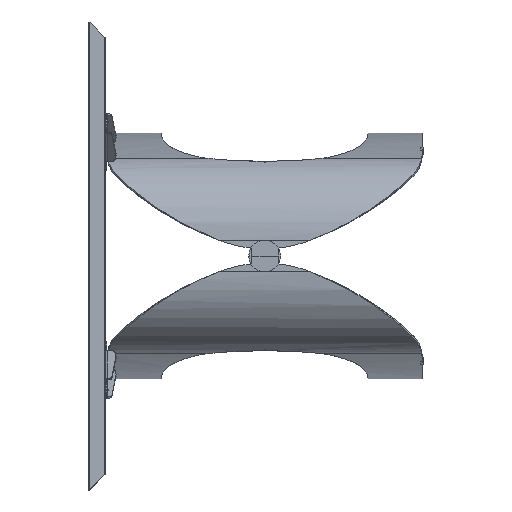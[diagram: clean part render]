
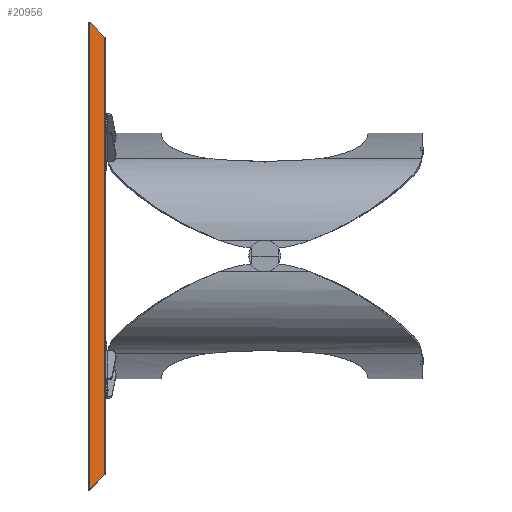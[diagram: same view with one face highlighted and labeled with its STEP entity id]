
A CAD part, left-side view. The second image highlights one B-rep face of the part: STEP entity #20956.
In plain terms, the highlighted planar face has unit normal (-0.707, -0.707, 0).
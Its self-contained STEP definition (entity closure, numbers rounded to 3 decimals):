
#110 = EDGE_CURVE ( 'NONE', #6776, #10801, #14763, .T. ) ;
#483 = CARTESIAN_POINT ( 'NONE',  ( -1000., 35., -530. ) ) ;
#619 = DIRECTION ( 'NONE',  ( 0., 0., 1. ) ) ;
#800 = CARTESIAN_POINT ( 'NONE',  ( -999.486, 34.486, 527.585 ) ) ;
#1539 = VECTOR ( 'NONE', #5731, 1000. ) ;
#1667 = CARTESIAN_POINT ( 'NONE',  ( -965.293, 0.293, 495. ) ) ;
#2527 = EDGE_CURVE ( 'NONE', #10801, #7977, #7954, .T. ) ;
#3574 = CARTESIAN_POINT ( 'NONE',  ( -1000., 35., -530. ) ) ;
#3772 = VECTOR ( 'NONE', #6684, 1000. ) ;
#5731 = DIRECTION ( 'NONE',  ( 0.577, -0.577, -0.577 ) ) ;
#5991 = ORIENTED_EDGE ( 'NONE', *, *, #18256, .T. ) ;
#6088 = CARTESIAN_POINT ( 'NONE',  ( -999.486, 34.486, -527.585 ) ) ;
#6281 = LINE ( 'NONE', #1667, #17276 ) ;
#6348 = CARTESIAN_POINT ( 'NONE',  ( -1000., 35., -526.344 ) ) ;
#6684 = DIRECTION ( 'NONE',  ( 0., 0., 1. ) ) ;
#6776 = VERTEX_POINT ( 'NONE', #21441 ) ;
#6801 = CARTESIAN_POINT ( 'NONE',  ( -1000., 35., 526.344 ) ) ;
#7682 = CARTESIAN_POINT ( 'NONE',  ( -1000., 35., 525. ) ) ;
#7954 = LINE ( 'NONE', #3574, #9101 ) ;
#7977 = VERTEX_POINT ( 'NONE', #25547 ) ;
#8132 = CARTESIAN_POINT ( 'NONE',  ( -998.536, 33.536, -528.536 ) ) ;
#8171 = AXIS2_PLACEMENT_3D ( 'NONE', #483, #25309, #619 ) ;
#8975 = CARTESIAN_POINT ( 'NONE',  ( -998.536, 33.536, 528.536 ) ) ;
#9101 = VECTOR ( 'NONE', #12153, 1000. ) ;
#9700 = VERTEX_POINT ( 'NONE', #11979 ) ;
#9806 = LINE ( 'NONE', #18158, #1539 ) ;
#10044 =( BOUNDED_CURVE ( )  B_SPLINE_CURVE ( 3, ( #8975, #800, #6801, #21787 ),
 .UNSPECIFIED., .F., .F. ) 
 B_SPLINE_CURVE_WITH_KNOTS ( ( 4, 4 ),
 ( 2.356, 3.142 ),
 .UNSPECIFIED. ) 
 CURVE ( )  GEOMETRIC_REPRESENTATION_ITEM ( )  RATIONAL_B_SPLINE_CURVE ( ( 1., 0.949, 0.949, 1. ) ) 
 REPRESENTATION_ITEM ( '' )  );
#10264 = EDGE_CURVE ( 'NONE', #18888, #23993, #10044, .T. ) ;
#10492 = DIRECTION ( 'NONE',  ( 0., 0., 1. ) ) ;
#10694 = FACE_OUTER_BOUND ( 'NONE', #16990, .T. ) ;
#10801 = VERTEX_POINT ( 'NONE', #24043 ) ;
#11251 = ORIENTED_EDGE ( 'NONE', *, *, #13392, .F. ) ;
#11433 = LINE ( 'NONE', #23849, #3772 ) ;
#11820 = ORIENTED_EDGE ( 'NONE', *, *, #2527, .T. ) ;
#11979 = CARTESIAN_POINT ( 'NONE',  ( -965.293, 0.293, 495.293 ) ) ;
#12153 = DIRECTION ( 'NONE',  ( 0.577, -0.577, 0.577 ) ) ;
#12560 = CARTESIAN_POINT ( 'NONE',  ( -998.536, 33.536, 528.536 ) ) ;
#12810 = ORIENTED_EDGE ( 'NONE', *, *, #15996, .F. ) ;
#13012 = ORIENTED_EDGE ( 'NONE', *, *, #10264, .T. ) ;
#13392 = EDGE_CURVE ( 'NONE', #18888, #9700, #9806, .T. ) ;
#14763 =( BOUNDED_CURVE ( )  B_SPLINE_CURVE ( 3, ( #26832, #6348, #6088, #8132 ),
 .UNSPECIFIED., .F., .F. ) 
 B_SPLINE_CURVE_WITH_KNOTS ( ( 4, 4 ),
 ( 3.142, 3.927 ),
 .UNSPECIFIED. ) 
 CURVE ( )  GEOMETRIC_REPRESENTATION_ITEM ( )  RATIONAL_B_SPLINE_CURVE ( ( 1., 0.949, 0.949, 1. ) ) 
 REPRESENTATION_ITEM ( '' )  );
#15996 = EDGE_CURVE ( 'NONE', #6776, #23993, #11433, .T. ) ;
#16990 = EDGE_LOOP ( 'NONE', ( #11820, #5991, #11251, #13012, #12810, #23536 ) ) ;
#17276 = VECTOR ( 'NONE', #10492, 1000. ) ;
#18158 = CARTESIAN_POINT ( 'NONE',  ( -646.667, -318.333, 176.667 ) ) ;
#18256 = EDGE_CURVE ( 'NONE', #7977, #9700, #6281, .T. ) ;
#18888 = VERTEX_POINT ( 'NONE', #12560 ) ;
#19048 = PLANE ( 'NONE',  #8171 ) ;
#20956 = ADVANCED_FACE ( 'NONE', ( #10694 ), #19048, .F. ) ;
#21441 = CARTESIAN_POINT ( 'NONE',  ( -1000., 35., -525. ) ) ;
#21787 = CARTESIAN_POINT ( 'NONE',  ( -1000., 35., 525. ) ) ;
#23536 = ORIENTED_EDGE ( 'NONE', *, *, #110, .T. ) ;
#23849 = CARTESIAN_POINT ( 'NONE',  ( -1000., 35., -530. ) ) ;
#23993 = VERTEX_POINT ( 'NONE', #7682 ) ;
#24043 = CARTESIAN_POINT ( 'NONE',  ( -998.536, 33.536, -528.536 ) ) ;
#25309 = DIRECTION ( 'NONE',  ( 0.707, 0.707, 0. ) ) ;
#25547 = CARTESIAN_POINT ( 'NONE',  ( -965.293, 0.293, -495.293 ) ) ;
#26832 = CARTESIAN_POINT ( 'NONE',  ( -1000., 35., -525. ) ) ;
